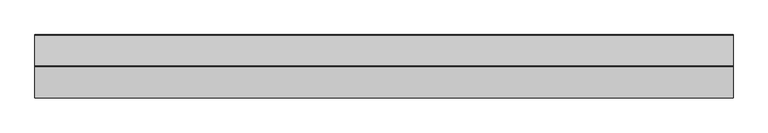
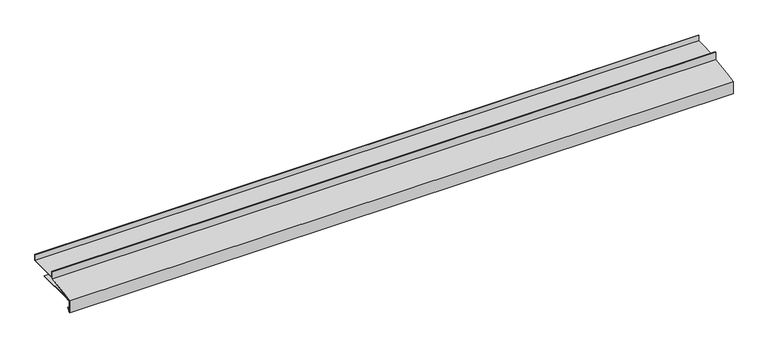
"""IFC4 building model written with IfcOpenShell, lengths in millimetres: proxy geometry, АК1_2 Примыкание к фундаментной балке : АК1_2 Примыкание к фундаментной балке."""

from ifc_helpers import new_model, si_unit, frame, origin, place, context, project, spatial, polyline, outline, extrude, faceted_brep, source, transform, mapped, element, save


def generic_models_6102174b(model_context):
    return source(origin(), model_context, "Body", "SolidModel", [
        faceted_brep([(0.0, 86.5, 55.3927051), (0.0, 85.5, 55.3927051), (2600.0, 85.5, 55.3927051), (2600.0, 86.5, 55.3927051), (0.0, 86.5, 24.5536055), (2600.0, 86.5, 24.5536055), (0.0, 0.0, 9.3013216), (2600.0, 0.0, 9.3013216), (2600.0, -30.0, 4.0115122), (0.0, -30.0, 4.0115122), (0.0, -30.0, -42.7351746), (2600.0, -30.0, -42.7351746), (0.0, -17.5649712, -30.3001458), (2600.0, -17.5649712, -30.3001458), (0.0, -16.8578644, -31.0072525), (2600.0, -16.8578644, -31.0072525), (0.0, -31.0, -45.1493882), (2600.0, -31.0, -45.1493882), (0.0, -31.0, 4.8506118), (2600.0, -31.0, 4.8506118), (0.0, 85.5, 25.3927051), (0.0, 0.0, 10.3167482), (2600.0, 0.0, 10.3167482), (2600.0, 85.5, 25.3927051)], [[[0, 1, 2, 3]], [[4, 0, 3, 5]], [[6, 4, 5, 7, 8, 9]], [[10, 9, 8, 11]], [[12, 10, 11, 13]], [[14, 12, 13, 15]], [[16, 14, 15, 17]], [[18, 16, 17, 19]], [[20, 21, 18, 19, 22, 23]], [[1, 20, 23, 2]], [[6, 21, 20, 1, 0, 4]], [[21, 6, 9, 10, 12, 14, 16, 18]], [[22, 7, 5, 3, 2, 23]], [[7, 22, 19, 17, 15, 13, 11, 8]]]),
        faceted_brep([(0.0, 140.0, 2.0), (0.0, 140.0, 4.0), (2600.0, 140.0, 4.0), (2600.0, 140.0, 2.0), (0.0, 0.0, 2.0), (2600.0, 0.0, 2.0), (2600.0, -28.0, 2.0), (0.0, -28.0, 2.0), (0.0, -28.0, -36.0), (2600.0, -28.0, -36.0), (0.0, -30.0, -36.0), (2600.0, -30.0, -36.0), (0.0, -30.0, 4.0), (2600.0, -30.0, 4.0), (0.0, 0.0, 4.0), (2600.0, 0.0, 4.0)], [[[0, 1, 2, 3]], [[4, 0, 3, 5, 6, 7]], [[8, 7, 6, 9]], [[10, 8, 9, 11]], [[12, 10, 11, 13]], [[1, 14, 12, 13, 15, 2]], [[4, 14, 1, 0]], [[14, 4, 7, 8, 10, 12]], [[15, 5, 3, 2]], [[5, 15, 13, 11, 9, 6]]]),
        extrude(outline(polyline([(86.5, 30.0), (86.5, 55.0), (88.5, 55.0), (88.5, 32.0), (202.5, 32.0), (202.5, 55.0), (204.5, 55.0), (204.5, 30.0), (86.5, 30.0)])), frame((0.0, 0.0, 0.0), z_axis=(1.0, 0.0, 0.0), x_axis=(0.0, 1.0, 0.0)), (0.0, 0.0, 1.0), 2600.0),
    ])


if __name__ == "__main__":
    model = new_model("IFC4")
    model_context = context("Model", 3, world=origin())
    ifc_project = project(units=[si_unit("LENGTHUNIT", "METRE", prefix="MILLI")], contexts=[model_context])
    site = spatial("IfcSite", under=ifc_project)
    building = spatial("IfcBuilding", under=site)
    placement = place(None, origin())
    generic_models_shape = generic_models_6102174b(model_context)
    element("IfcBuildingElementProxy", 1, Name="АК1_2 Примыкание к фундаментной балке : АК1_2 Примыкание к фундаментной балке", ObjectType="АК1_2 Примыкание к фундаментной балке : АК1_2 Примыкание к фундаментной балке", at=placement, inside=building, context=model_context, shape_type="MappedRepresentation", body=[
        mapped(generic_models_shape, transform((0.0, 0.0, 0.0), x_axis=(1.0, 0.0, 0.0), y_axis=(0.0, 1.0, 0.0), z_axis=(0.0, 0.0, 1.0))),
    ])
    save(model, "model.ifc")
